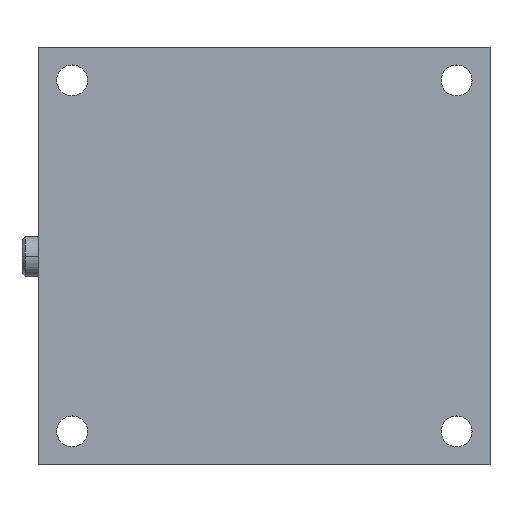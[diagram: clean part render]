
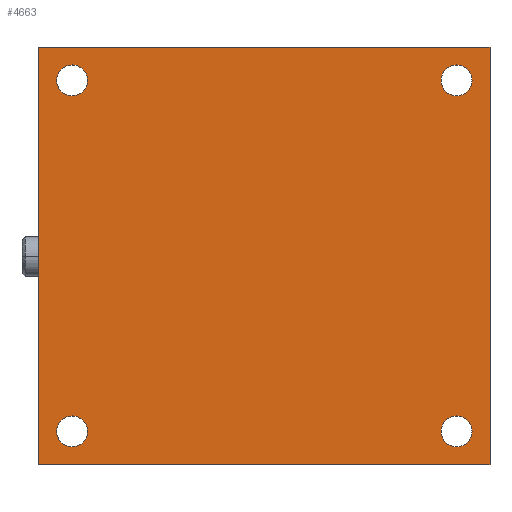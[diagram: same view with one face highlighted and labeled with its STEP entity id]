
A CAD part, top view. The second image highlights one B-rep face of the part: STEP entity #4663.
In plain terms, the highlighted planar face has unit normal (0, 0, 1).
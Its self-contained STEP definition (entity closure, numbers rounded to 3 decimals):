
#134 = AXIS2_PLACEMENT_3D ( 'NONE', #10449, #6958, #2744 ) ;
#141 = EDGE_CURVE ( 'NONE', #5614, #4626, #6923, .T. ) ;
#148 = DIRECTION ( 'NONE',  ( 0., 0., 1. ) ) ;
#179 = CIRCLE ( 'NONE', #3296, 9.25 ) ;
#511 = FACE_BOUND ( 'NONE', #2498, .T. ) ;
#660 = CARTESIAN_POINT ( 'NONE',  ( 159.93, -68.074, 20. ) ) ;
#966 = VERTEX_POINT ( 'NONE', #1030 ) ;
#1030 = CARTESIAN_POINT ( 'NONE',  ( -99.32, -48.074, 20. ) ) ;
#1062 = DIRECTION ( 'NONE',  ( 1., 0., 0. ) ) ;
#1172 = AXIS2_PLACEMENT_3D ( 'NONE', #9927, #10846, #4813 ) ;
#1196 = FACE_BOUND ( 'NONE', #1664, .T. ) ;
#1232 = ORIENTED_EDGE ( 'NONE', *, *, #6998, .F. ) ;
#1533 = CARTESIAN_POINT ( 'NONE',  ( -110.07, 181.926, 20. ) ) ;
#1585 = CARTESIAN_POINT ( 'NONE',  ( 0., 0., 20. ) ) ;
#1616 = CARTESIAN_POINT ( 'NONE',  ( 149.18, -48.074, 20. ) ) ;
#1664 = EDGE_LOOP ( 'NONE', ( #7556, #2105 ) ) ;
#1729 = FACE_OUTER_BOUND ( 'NONE', #2677, .T. ) ;
#1739 = CIRCLE ( 'NONE', #1172, 9.25 ) ;
#1895 = VECTOR ( 'NONE', #9062, 1000. ) ;
#2105 = ORIENTED_EDGE ( 'NONE', *, *, #8045, .F. ) ;
#2238 = EDGE_LOOP ( 'NONE', ( #9157, #9038 ) ) ;
#2282 = AXIS2_PLACEMENT_3D ( 'NONE', #10025, #9212, #2469 ) ;
#2376 = VERTEX_POINT ( 'NONE', #5549 ) ;
#2469 = DIRECTION ( 'NONE',  ( 1., 0., 0. ) ) ;
#2498 = EDGE_LOOP ( 'NONE', ( #1232, #7611 ) ) ;
#2677 = EDGE_LOOP ( 'NONE', ( #6451, #8098, #7096, #10200 ) ) ;
#2744 = DIRECTION ( 'NONE',  ( 1., 0., 0. ) ) ;
#2760 = CARTESIAN_POINT ( 'NONE',  ( 159.93, -68.074, 20. ) ) ;
#2818 = CARTESIAN_POINT ( 'NONE',  ( -80.82, -48.074, 20. ) ) ;
#3224 = AXIS2_PLACEMENT_3D ( 'NONE', #9956, #6471, #5521 ) ;
#3244 = CARTESIAN_POINT ( 'NONE',  ( -90.07, 161.926, 20. ) ) ;
#3296 = AXIS2_PLACEMENT_3D ( 'NONE', #3363, #9375, #10227 ) ;
#3359 = EDGE_CURVE ( 'NONE', #4941, #966, #10247, .T. ) ;
#3363 = CARTESIAN_POINT ( 'NONE',  ( 139.93, 161.926, 20. ) ) ;
#3859 = VECTOR ( 'NONE', #6477, 1000. ) ;
#3916 = CARTESIAN_POINT ( 'NONE',  ( -110.07, -68.074, 20. ) ) ;
#4173 = DIRECTION ( 'NONE',  ( 1., 0., 0. ) ) ;
#4434 = EDGE_LOOP ( 'NONE', ( #7255, #7685 ) ) ;
#4482 = EDGE_CURVE ( 'NONE', #10892, #10593, #1739, .T. ) ;
#4563 = EDGE_CURVE ( 'NONE', #2376, #8173, #5095, .T. ) ;
#4614 = CARTESIAN_POINT ( 'NONE',  ( 149.18, 161.926, 20. ) ) ;
#4620 = AXIS2_PLACEMENT_3D ( 'NONE', #1585, #9265, #5797 ) ;
#4626 = VERTEX_POINT ( 'NONE', #5763 ) ;
#4663 = ADVANCED_FACE ( 'NONE', ( #7536, #511, #1196, #6588, #1729 ), #6735, .T. ) ;
#4813 = DIRECTION ( 'NONE',  ( 1., 0., 0. ) ) ;
#4941 = VERTEX_POINT ( 'NONE', #2818 ) ;
#5095 = LINE ( 'NONE', #660, #8359 ) ;
#5317 = CIRCLE ( 'NONE', #10861, 9.25 ) ;
#5441 = EDGE_CURVE ( 'NONE', #9098, #9767, #7905, .T. ) ;
#5521 = DIRECTION ( 'NONE',  ( 1., 0., 0. ) ) ;
#5549 = CARTESIAN_POINT ( 'NONE',  ( 159.93, 181.926, 20. ) ) ;
#5614 = VERTEX_POINT ( 'NONE', #7054 ) ;
#5763 = CARTESIAN_POINT ( 'NONE',  ( -80.82, 161.926, 20. ) ) ;
#5793 = EDGE_CURVE ( 'NONE', #8739, #2376, #8586, .T. ) ;
#5797 = DIRECTION ( 'NONE',  ( 1., 0., 0. ) ) ;
#5831 = DIRECTION ( 'NONE',  ( 0., 0., 1. ) ) ;
#5968 = CARTESIAN_POINT ( 'NONE',  ( -110.07, 181.926, 20. ) ) ;
#6231 = EDGE_CURVE ( 'NONE', #8173, #10934, #6952, .T. ) ;
#6284 = VECTOR ( 'NONE', #7073, 1000. ) ;
#6451 = ORIENTED_EDGE ( 'NONE', *, *, #5793, .F. ) ;
#6452 = CIRCLE ( 'NONE', #10318, 9.25 ) ;
#6471 = DIRECTION ( 'NONE',  ( 0., 0., 1. ) ) ;
#6477 = DIRECTION ( 'NONE',  ( -1., 0., 0. ) ) ;
#6588 = FACE_BOUND ( 'NONE', #2238, .T. ) ;
#6735 = PLANE ( 'NONE',  #4620 ) ;
#6923 = CIRCLE ( 'NONE', #3224, 9.25 ) ;
#6952 = LINE ( 'NONE', #3916, #3859 ) ;
#6958 = DIRECTION ( 'NONE',  ( 0., 0., 1. ) ) ;
#6998 = EDGE_CURVE ( 'NONE', #10593, #10892, #5317, .T. ) ;
#7054 = CARTESIAN_POINT ( 'NONE',  ( -99.32, 161.926, 20. ) ) ;
#7073 = DIRECTION ( 'NONE',  ( 1., 0., 0. ) ) ;
#7096 = ORIENTED_EDGE ( 'NONE', *, *, #6231, .F. ) ;
#7255 = ORIENTED_EDGE ( 'NONE', *, *, #7785, .F. ) ;
#7536 = FACE_BOUND ( 'NONE', #4434, .T. ) ;
#7556 = ORIENTED_EDGE ( 'NONE', *, *, #3359, .F. ) ;
#7611 = ORIENTED_EDGE ( 'NONE', *, *, #4482, .F. ) ;
#7685 = ORIENTED_EDGE ( 'NONE', *, *, #5441, .F. ) ;
#7785 = EDGE_CURVE ( 'NONE', #9767, #9098, #179, .T. ) ;
#7905 = CIRCLE ( 'NONE', #8405, 9.25 ) ;
#8045 = EDGE_CURVE ( 'NONE', #966, #4941, #9749, .T. ) ;
#8098 = ORIENTED_EDGE ( 'NONE', *, *, #9071, .F. ) ;
#8173 = VERTEX_POINT ( 'NONE', #2760 ) ;
#8359 = VECTOR ( 'NONE', #8367, 1000. ) ;
#8367 = DIRECTION ( 'NONE',  ( 0., -1., 0. ) ) ;
#8405 = AXIS2_PLACEMENT_3D ( 'NONE', #10023, #9322, #4173 ) ;
#8432 = DIRECTION ( 'NONE',  ( 1., 0., 0. ) ) ;
#8586 = LINE ( 'NONE', #10456, #6284 ) ;
#8739 = VERTEX_POINT ( 'NONE', #5968 ) ;
#9038 = ORIENTED_EDGE ( 'NONE', *, *, #141, .F. ) ;
#9062 = DIRECTION ( 'NONE',  ( 0., 1., 0. ) ) ;
#9071 = EDGE_CURVE ( 'NONE', #10934, #8739, #10936, .T. ) ;
#9098 = VERTEX_POINT ( 'NONE', #11089 ) ;
#9157 = ORIENTED_EDGE ( 'NONE', *, *, #10610, .F. ) ;
#9212 = DIRECTION ( 'NONE',  ( 0., 0., 1. ) ) ;
#9265 = DIRECTION ( 'NONE',  ( 0., 0., 1. ) ) ;
#9322 = DIRECTION ( 'NONE',  ( 0., 0., 1. ) ) ;
#9375 = DIRECTION ( 'NONE',  ( 0., 0., 1. ) ) ;
#9649 = CARTESIAN_POINT ( 'NONE',  ( 139.93, -48.074, 20. ) ) ;
#9656 = CARTESIAN_POINT ( 'NONE',  ( -110.07, -68.074, 20. ) ) ;
#9688 = CARTESIAN_POINT ( 'NONE',  ( 130.68, -48.074, 20. ) ) ;
#9749 = CIRCLE ( 'NONE', #2282, 9.25 ) ;
#9767 = VERTEX_POINT ( 'NONE', #4614 ) ;
#9927 = CARTESIAN_POINT ( 'NONE',  ( 139.93, -48.074, 20. ) ) ;
#9956 = CARTESIAN_POINT ( 'NONE',  ( -90.07, 161.926, 20. ) ) ;
#10023 = CARTESIAN_POINT ( 'NONE',  ( 139.93, 161.926, 20. ) ) ;
#10025 = CARTESIAN_POINT ( 'NONE',  ( -90.07, -48.074, 20. ) ) ;
#10200 = ORIENTED_EDGE ( 'NONE', *, *, #4563, .F. ) ;
#10227 = DIRECTION ( 'NONE',  ( 1., 0., 0. ) ) ;
#10247 = CIRCLE ( 'NONE', #134, 9.25 ) ;
#10318 = AXIS2_PLACEMENT_3D ( 'NONE', #3244, #5831, #8432 ) ;
#10449 = CARTESIAN_POINT ( 'NONE',  ( -90.07, -48.074, 20. ) ) ;
#10456 = CARTESIAN_POINT ( 'NONE',  ( 159.93, 181.926, 20. ) ) ;
#10593 = VERTEX_POINT ( 'NONE', #1616 ) ;
#10610 = EDGE_CURVE ( 'NONE', #4626, #5614, #6452, .T. ) ;
#10846 = DIRECTION ( 'NONE',  ( 0., 0., 1. ) ) ;
#10861 = AXIS2_PLACEMENT_3D ( 'NONE', #9649, #148, #1062 ) ;
#10892 = VERTEX_POINT ( 'NONE', #9688 ) ;
#10934 = VERTEX_POINT ( 'NONE', #9656 ) ;
#10936 = LINE ( 'NONE', #1533, #1895 ) ;
#11089 = CARTESIAN_POINT ( 'NONE',  ( 130.68, 161.926, 20. ) ) ;
